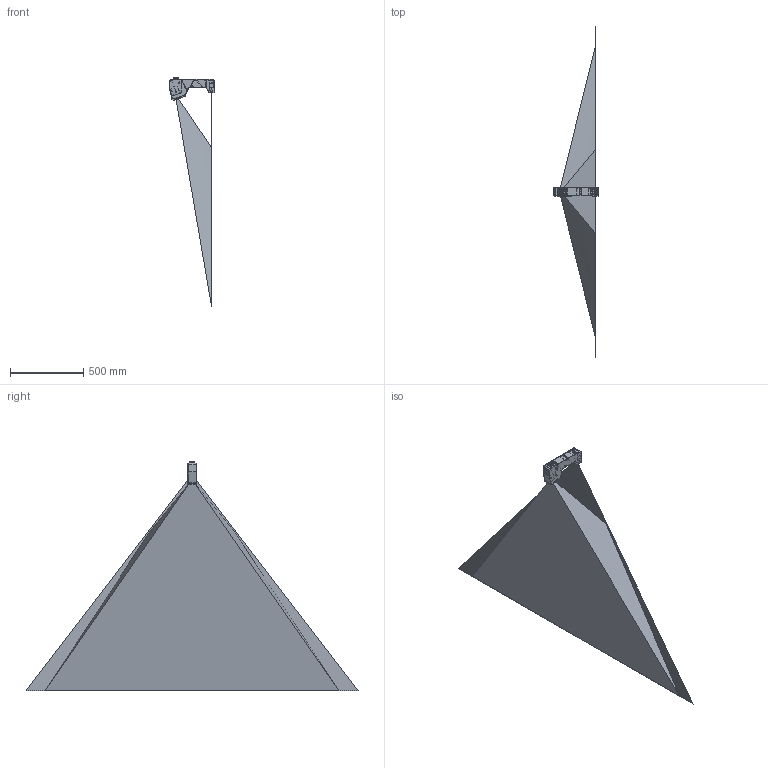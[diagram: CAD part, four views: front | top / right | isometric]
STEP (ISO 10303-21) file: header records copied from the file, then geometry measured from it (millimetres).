
FILE_DESCRIPTION(/* description */ (''),/* implementation_level */ '2;1');
FILE_NAME(/* name */ 'C6-S7-2040-CS-15-1290-920-SX-1G-XXX-XX_Public.iam.stp',/* time_stamp */ '2025-06-11T12:16:52+02:00',/* author */ ('AT'),/* organization */ ('Automation Technology GmbH'),/* preprocessor_version */ 'ST-DEVELOPER v20',/* originating_system */ 'Autodesk Inventor 2024',/* authorisation */ '');
FILE_SCHEMA (('AUTOMOTIVE_DESIGN { 1 0 10303 214 3 1 1 }'));
Products named in the file (20): C6-S7-2040-CS-15-1290-920-SX-1G-XXX-XX_Public; Screw GB/T 2672 M2,5 x 6; Screw GB/T 2672 M2,5 x 4; 1292.6001; 202209000-202; 202209000-203; 202202010-010; 202190016-009; C6-S7-2040-CS-15-1290-920-SX-1G-XXX-XX_Strahlengang; Glasscheibe2Zollx1; EO: 48-924; SACC-DSI-FS-8CON-L180_SCO SH_1553860-01; SACC-DSI-FS-8CON-L180_SCO SH_1553860_Stecker; SACC-DSI-FS-8CON-L180_SCO SH_1553860_Mutter; SACC-DSI-FS-8CON-L180_SCO SH_1553860_Kunststoffeinsatz; SACC-DSI-MS-17CON-M12 SCO SH_1437119-01; SACC-DSI-MS-17CON-M12 SCO SH_1437119_Stecker; SACC-DSI-MS-17CON-M12 SCO SH_1437119_Mutter; SACC-DSI-MS-17CON-M12 SCO SH_1437119_Pins; SACC-DSI-MS-17CON-M12 SCO SH_1437119_Kunststoffeinsatz
Assembly tree (41 placements, depth 3):
  C6-S7-2040-CS-15-1290-920-SX-1G-XXX-XX_Public
    Screw GB/T 2672 M2,5 x 6  x12
    Screw GB/T 2672 M2,5 x 4  x8
    1292.6001  x5
    202209000-202
    202209000-203
    202202010-010
    202190016-009
    C6-S7-2040-CS-15-1290-920-SX-1G-XXX-XX_Strahlengang
    Glasscheibe2Zollx1
    EO: 48-924
    SACC-DSI-FS-8CON-L180_SCO SH_1553860-01
      SACC-DSI-FS-8CON-L180_SCO SH_1553860_Stecker
      SACC-DSI-FS-8CON-L180_SCO SH_1553860_Mutter
      SACC-DSI-FS-8CON-L180_SCO SH_1553860_Kunststoffeinsatz
    SACC-DSI-MS-17CON-M12 SCO SH_1437119-01
      SACC-DSI-MS-17CON-M12 SCO SH_1437119_Stecker
      SACC-DSI-MS-17CON-M12 SCO SH_1437119_Mutter
      SACC-DSI-MS-17CON-M12 SCO SH_1437119_Pins
      SACC-DSI-MS-17CON-M12 SCO SH_1437119_Kunststoffeinsatz
Bounding box: 310 x 2273.87 x 1572.8 mm (x, y, z)
Volume: 117175516.6 mm3; surface area: 5282419.8 mm2
Topology: 56 solids, 57 shells, 2675 faces, 6455 edges, 4002 vertices
Faces by surface type: cylinder 1220, plane 1003, bspline 181, cone 122, torus 95, sphere 54
Full cylindrical faces by diameter (mm): 0.217 x1, 0.6 x25, 0.63 x34, 0.9 x8, 1 x10, 1.1 x17, 1.2 x17, 1.5 x5, 1.567 x10, 1.6 x5, 2 x15, 2.013 x40, 2.208 x20, 2.4 x20, 2.5 x20, 2.6 x17, 2.8 x8, 4 x3, 4.134 x6, 4.4 x3, 5 x20, 5.2 x12, 5.5 x8, 7.7 x1, 8.25 x2, 8.3 x1, 8.7 x1, 10.5 x1, 10.7 x3, 10.917 x2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
Entity records: 93610 total; most frequent: CARTESIAN_POINT 46632, DIRECTION 9315, ORIENTED_EDGE 9290, EDGE_CURVE 4647, AXIS2_PLACEMENT_3D 3437, VERTEX_POINT 3064, LINE 2441, VECTOR 2441
